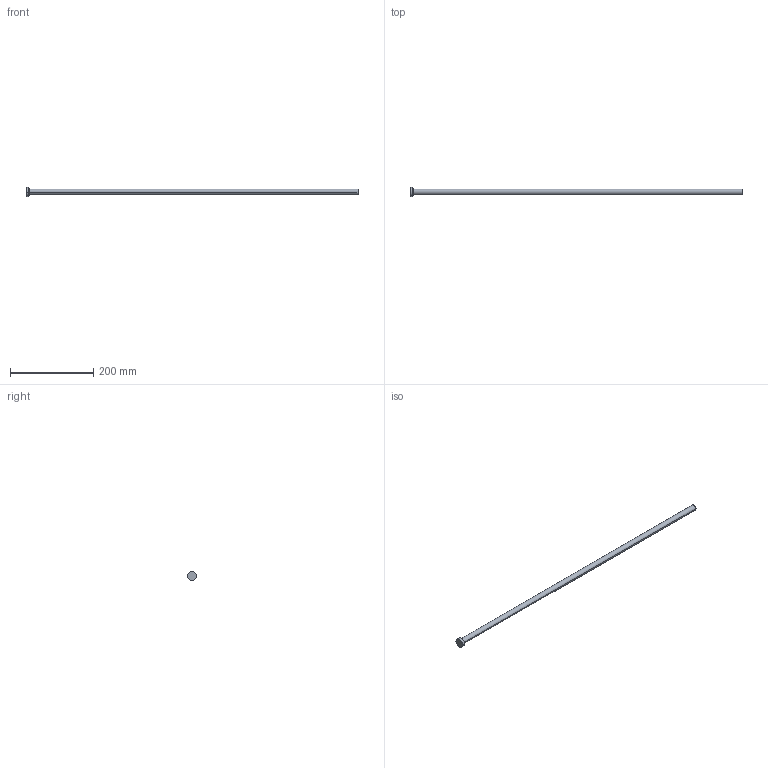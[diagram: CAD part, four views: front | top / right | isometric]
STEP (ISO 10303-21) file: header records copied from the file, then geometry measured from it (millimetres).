
FILE_DESCRIPTION (( 'STEP AP214' ), '1' );
FILE_NAME ('A-14x800.STEP', '2020-05-29T16:17:36', ( 'August' ), ( '' ), 'SwSTEP 2.0', 'SolidWorks 2018', '' );
FILE_SCHEMA (( 'AUTOMOTIVE_DESIGN' ));
Length unit declared in the file: millimetre
Products named in the file (1): A-14x800
Bounding box: 800 x 22 x 22 mm (x, y, z)
Volume: 124740 mm3; surface area: 36107.2 mm2
Topology: 1 solids, 1 shells, 9 faces, 16 edges, 10 vertices
Faces by surface type: cylinder 4, plane 3, torus 2
Entity records: 260 total; most frequent: DIRECTION 48, CARTESIAN_POINT 36, ORIENTED_EDGE 32, AXIS2_PLACEMENT_3D 22, EDGE_CURVE 16, CIRCLE 12, VERTEX_POINT 10, EDGE_LOOP 10
